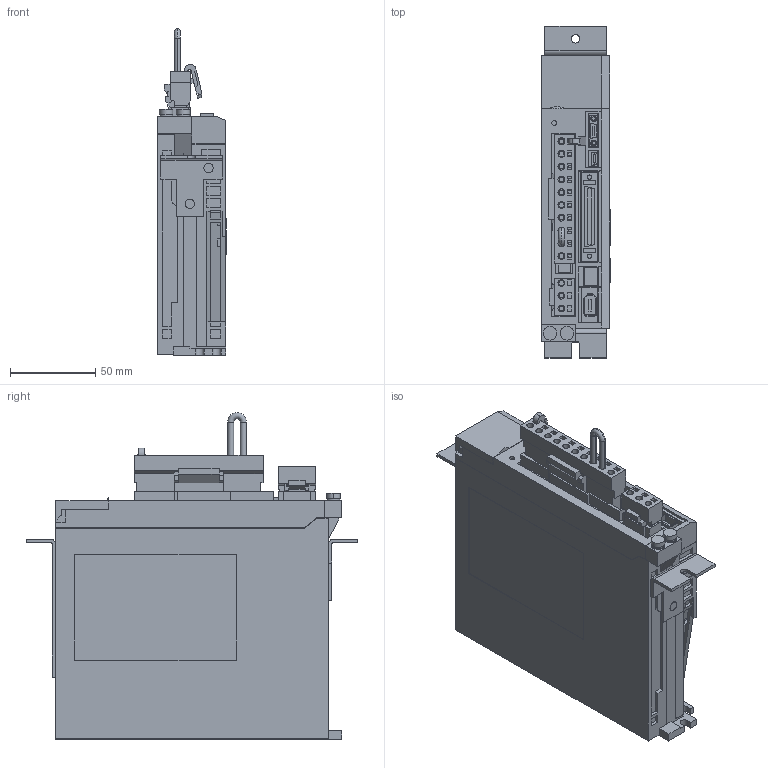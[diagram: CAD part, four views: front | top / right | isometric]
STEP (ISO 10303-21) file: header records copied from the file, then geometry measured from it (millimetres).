
FILE_DESCRIPTION (( 'STEP AP203' ), '1' );
FILE_NAME ('sgd7s_r90a00a001.STEP', '2015-02-05T08:35:33', ( '匠エンジニアリング山之内' ), ( 'TAKUMI-Engniaring' ), 'SwSTEP 2.0', 'SolidWorks 2006303', '' );
FILE_SCHEMA (( 'CONFIG_CONTROL_DESIGN' ));
Length unit declared in the file: millimetre
Products named in the file (12): sgd7s_r90a00a001_cover; sgd7s_r90a00a001_cover2; sgd7s_r90a00a001; sgd7s_r90a00a001_connector; sgd7s_r90a00a001_base; sgd7s_r90a00a001_connector_2; sgd7s_r90a00a001_cable; sgd7s_r90a00a001_pin; sgd7s_r90a00a001_connector_1; sgd7s_r90a00a001_connector_3; sgd7s_r90a00a001_mount1; sgd7s_r90a00a001_mount2
Assembly tree (12 placements, depth 3):
  sgd7s_r90a00a001
    sgd7s_r90a00a001_mount1
    sgd7s_r90a00a001_base
    sgd7s_r90a00a001_connector
      sgd7s_r90a00a001_cable
      sgd7s_r90a00a001_pin
      sgd7s_r90a00a001_connector_2
    sgd7s_r90a00a001_connector_1
    sgd7s_r90a00a001_cover
    sgd7s_r90a00a001_mount2
    sgd7s_r90a00a001_cover2  x2
    sgd7s_r90a00a001_connector_3
Bounding box: 40.5 x 195 x 191.8 mm (x, y, z)
Volume: 841174.2 mm3; surface area: 140979.7 mm2
Topology: 11 solids, 11 shells, 1715 faces, 4486 edges, 2959 vertices
Faces by surface type: plane 1480, cylinder 228, cone 4, torus 2, sphere 1
Entity records: 52648 total; most frequent: CARTESIAN_POINT 9065, ORIENTED_EDGE 8864, DIRECTION 8322, EDGE_CURVE 4432, LINE 3962, VECTOR 3962, VERTEX_POINT 2923, AXIS2_PLACEMENT_3D 2180
